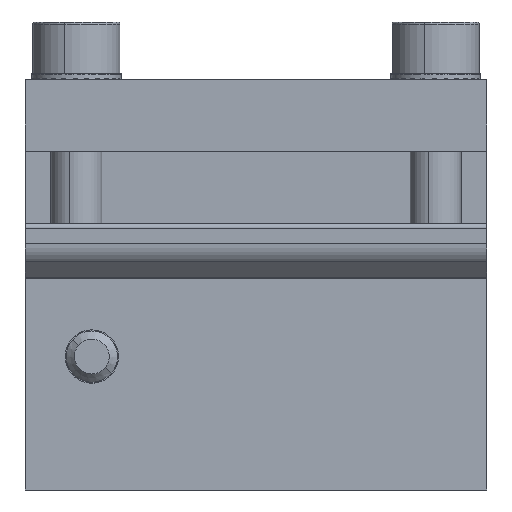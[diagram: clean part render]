
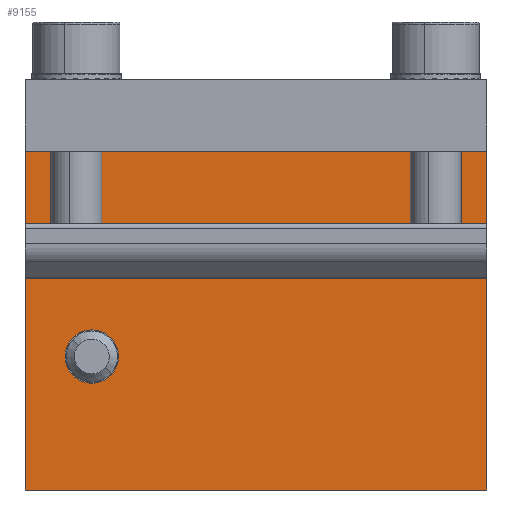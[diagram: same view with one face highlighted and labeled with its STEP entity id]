
A CAD part, left-side view. The second image highlights one B-rep face of the part: STEP entity #9155.
In plain terms, the highlighted planar face has unit normal (-1, 0, 0).
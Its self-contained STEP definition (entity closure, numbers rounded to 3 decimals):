
#310 = FACE_OUTER_BOUND ( 'NONE', #23772, .T. ) ;
#802 = DIRECTION ( 'NONE',  ( 0., -1., 0. ) ) ;
#1975 = VERTEX_POINT ( 'NONE', #28800 ) ;
#2514 = VERTEX_POINT ( 'NONE', #8525 ) ;
#2691 = CARTESIAN_POINT ( 'NONE',  ( -94.43, 43.17, 24.464 ) ) ;
#3112 = EDGE_CURVE ( 'NONE', #30912, #16912, #34598, .T. ) ;
#3626 = LINE ( 'NONE', #6896, #9997 ) ;
#4777 = LINE ( 'NONE', #5479, #19233 ) ;
#4924 = ORIENTED_EDGE ( 'NONE', *, *, #30827, .F. ) ;
#5390 = ORIENTED_EDGE ( 'NONE', *, *, #7136, .T. ) ;
#5479 = CARTESIAN_POINT ( 'NONE',  ( -94.43, 4.67, 28.864 ) ) ;
#5980 = CARTESIAN_POINT ( 'NONE',  ( -94.43, 49.67, 28.864 ) ) ;
#6643 = ORIENTED_EDGE ( 'NONE', *, *, #14699, .F. ) ;
#6896 = CARTESIAN_POINT ( 'NONE',  ( -94.43, 27.17, 8.864 ) ) ;
#7136 = EDGE_CURVE ( 'NONE', #30912, #1975, #12071, .T. ) ;
#7270 = AXIS2_PLACEMENT_3D ( 'NONE', #13604, #32587, #16324 ) ;
#7651 = EDGE_CURVE ( 'NONE', #2514, #16912, #4777, .T. ) ;
#8198 = DIRECTION ( 'NONE',  ( 0., 0., 1. ) ) ;
#8525 = CARTESIAN_POINT ( 'NONE',  ( -94.43, 4.67, 8.864 ) ) ;
#9155 = ADVANCED_FACE ( 'NONE', ( #13870, #310 ), #20305, .F. ) ;
#9232 = EDGE_LOOP ( 'NONE', ( #4924, #18719 ) ) ;
#9997 = VECTOR ( 'NONE', #28623, 1000. ) ;
#11240 = AXIS2_PLACEMENT_3D ( 'NONE', #14962, #33979, #17678 ) ;
#12052 = CARTESIAN_POINT ( 'NONE',  ( -94.43, 43.17, 19.264 ) ) ;
#12071 = LINE ( 'NONE', #5980, #32032 ) ;
#12151 = EDGE_CURVE ( 'NONE', #29823, #34911, #16644, .T. ) ;
#12516 = ORIENTED_EDGE ( 'NONE', *, *, #7651, .T. ) ;
#12912 = VECTOR ( 'NONE', #802, 1000. ) ;
#13604 = CARTESIAN_POINT ( 'NONE',  ( -94.43, 43.17, 21.864 ) ) ;
#13870 = FACE_BOUND ( 'NONE', #9232, .T. ) ;
#14699 = EDGE_CURVE ( 'NONE', #2514, #1975, #3626, .T. ) ;
#14962 = CARTESIAN_POINT ( 'NONE',  ( -94.43, 4.67, 41.864 ) ) ;
#15695 = AXIS2_PLACEMENT_3D ( 'NONE', #32393, #16140, #35143 ) ;
#16140 = DIRECTION ( 'NONE',  ( -1., 0., 0. ) ) ;
#16324 = DIRECTION ( 'NONE',  ( 0., 0., -1. ) ) ;
#16644 = CIRCLE ( 'NONE', #7270, 2.6 ) ;
#16912 = VERTEX_POINT ( 'NONE', #28817 ) ;
#17678 = DIRECTION ( 'NONE',  ( 0., 0., -1. ) ) ;
#18719 = ORIENTED_EDGE ( 'NONE', *, *, #12151, .F. ) ;
#19233 = VECTOR ( 'NONE', #8198, 1000. ) ;
#20305 = PLANE ( 'NONE',  #11240 ) ;
#23772 = EDGE_LOOP ( 'NONE', ( #32559, #5390, #6643, #12516 ) ) ;
#24702 = CARTESIAN_POINT ( 'NONE',  ( -94.43, 49.67, 41.864 ) ) ;
#25773 = CIRCLE ( 'NONE', #15695, 2.6 ) ;
#28623 = DIRECTION ( 'NONE',  ( 0., 1., 0. ) ) ;
#28800 = CARTESIAN_POINT ( 'NONE',  ( -94.43, 49.67, 8.864 ) ) ;
#28817 = CARTESIAN_POINT ( 'NONE',  ( -94.43, 4.67, 41.864 ) ) ;
#29823 = VERTEX_POINT ( 'NONE', #2691 ) ;
#30397 = DIRECTION ( 'NONE',  ( 0., 0., -1. ) ) ;
#30827 = EDGE_CURVE ( 'NONE', #34911, #29823, #25773, .T. ) ;
#30912 = VERTEX_POINT ( 'NONE', #24702 ) ;
#32032 = VECTOR ( 'NONE', #30397, 1000. ) ;
#32393 = CARTESIAN_POINT ( 'NONE',  ( -94.43, 43.17, 21.864 ) ) ;
#32559 = ORIENTED_EDGE ( 'NONE', *, *, #3112, .F. ) ;
#32587 = DIRECTION ( 'NONE',  ( -1., 0., 0. ) ) ;
#33311 = CARTESIAN_POINT ( 'NONE',  ( -94.43, 27.17, 41.864 ) ) ;
#33979 = DIRECTION ( 'NONE',  ( 1., 0., 0. ) ) ;
#34598 = LINE ( 'NONE', #33311, #12912 ) ;
#34911 = VERTEX_POINT ( 'NONE', #12052 ) ;
#35143 = DIRECTION ( 'NONE',  ( 0., 0., -1. ) ) ;
